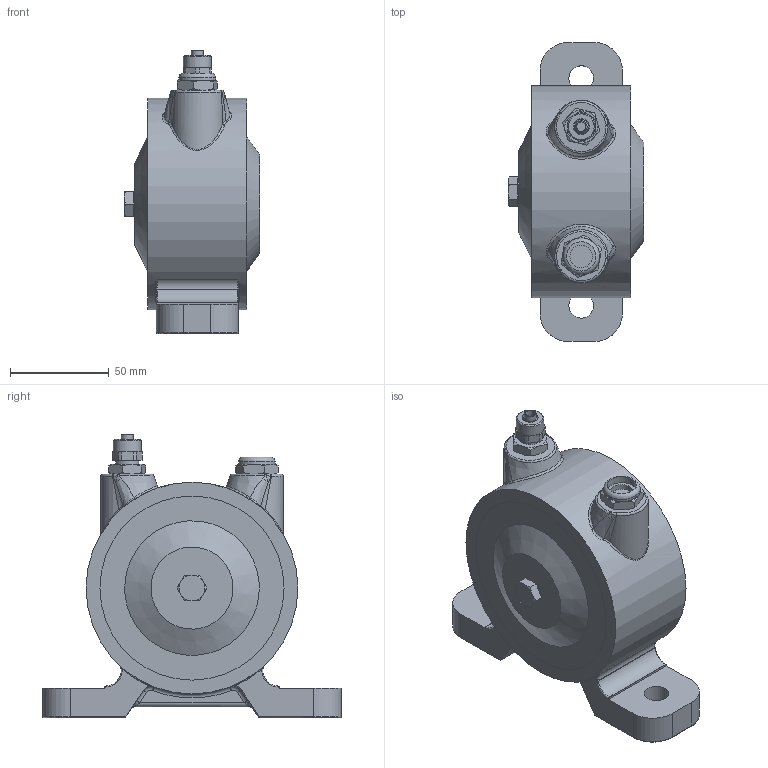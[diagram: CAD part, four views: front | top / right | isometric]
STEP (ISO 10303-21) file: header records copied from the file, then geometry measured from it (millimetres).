
FILE_DESCRIPTION(/* description */ (''),/* implementation_level */ '2;1');
FILE_NAME(/* name */ 'PV 35.stp',/* time_stamp */ '2026-09-09T09:56:32+03:00',/* author */ ('PC'),/* organization */ (''),/* preprocessor_version */ 'ST-DEVELOPER v20.1',/* originating_system */ 'Autodesk Inventor 2026',/* authorisation */ '');
FILE_SCHEMA (('AUTOMOTIVE_DESIGN { 1 0 10303 214 3 1 1 }'));
Length unit declared in the file: millimetre
Products named in the file (1): PV 35
Bounding box: 68.4 x 151 x 143.18 mm (x, y, z)
Volume: 571693.8 mm3; surface area: 53050.4 mm2
Topology: 1 solids, 1 shells, 244 faces, 566 edges, 336 vertices
Faces by surface type: plane 73, cylinder 63, bspline 55, torus 28, cone 25
Full cylindrical faces by diameter (mm): 4.8 x1, 5.93 x1, 6.647 x1, 7.13 x1, 8 x1, 11.38 x1, 11.5 x1, 11.6 x2, 12.5 x2, 14 x1, 14.8 x1, 18.5 x1, 48 x1, 93 x2, 107 x1
Entity records: 8741 total; most frequent: CARTESIAN_POINT 3257, ORIENTED_EDGE 1114, DIRECTION 1034, EDGE_CURVE 557, AXIS2_PLACEMENT_3D 426, VERTEX_POINT 336, EDGE_LOOP 269, FACE_OUTER_BOUND 244
